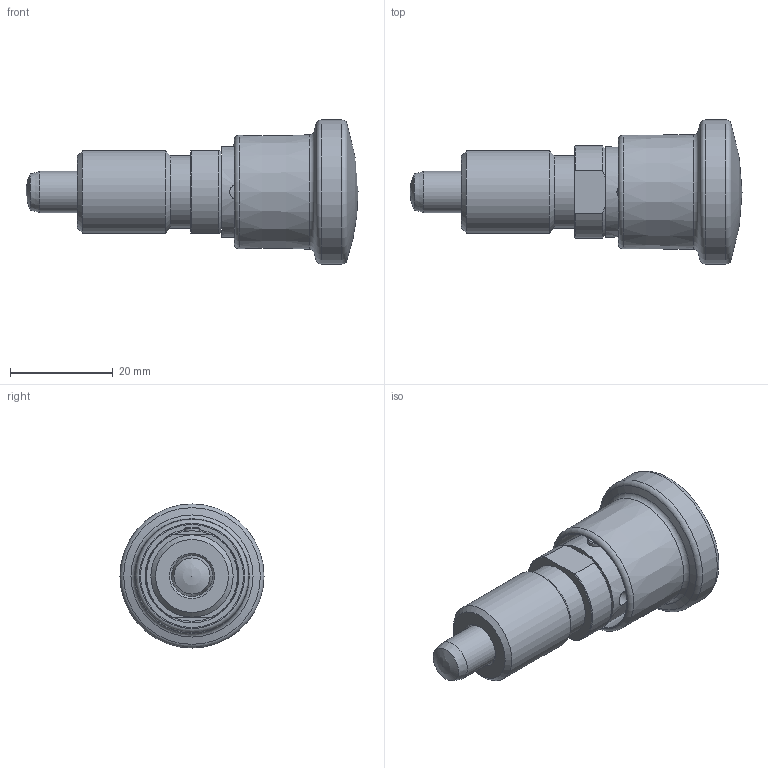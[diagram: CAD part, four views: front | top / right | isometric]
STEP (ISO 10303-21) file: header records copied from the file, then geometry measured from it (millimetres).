
FILE_DESCRIPTION( ( 'STEP AP203' ), '1' );
FILE_NAME( 'C:/Temp/Ganter_Step_05_03_2020/data/3_1/gn816_1/gn_816_1_ar/Locking plunger GN 816.1-8-M16x1,5-AR (activated).stp', '2020-03-12T08:56:14', ( 'License CC BY-ND 4.0' ), ( 'CADENAS' ), ' ', 'PARTsolutions', ' ' );
FILE_SCHEMA( ( 'CONFIG_CONTROL_DESIGN' ) );
Length unit declared in the file: millimetre
Products named in the file (3): Locking plunger GN 816.1-8-M16x1,5-AR (activated); _GN 816.1-8-M16x1,5-AR (activated)-2; _GN 816.1-8-M16x1,5-AR (activated)-1
Assembly tree (2 placements, depth 2):
  Locking plunger GN 816.1-8-M16x1,5-AR (activated)
    _GN 816.1-8-M16x1,5-AR (activated)-2
    _GN 816.1-8-M16x1,5-AR (activated)-1
Bounding box: 64.5 x 28 x 28 mm (x, y, z)
Volume: 14261.7 mm3; surface area: 10453.4 mm2
Topology: 2 solids, 2 shells, 55 faces, 116 edges, 73 vertices
Faces by surface type: cone 17, cylinder 16, plane 14, torus 6, sphere 2
Full cylindrical faces by diameter (mm): 2.9 x1, 3 x3, 8 x2, 11 x1, 11.1 x1, 14.2 x2, 16 x1, 18.2 x1, 20.017 x1, 28 x1
Entity records: 1700 total; most frequent: CARTESIAN_POINT 575, DIRECTION 222, ORIENTED_EDGE 144, AXIS2_PLACEMENT_3D 107, EDGE_LOOP 106, FACE_OUTER_BOUND 75, EDGE_CURVE 72, VERTEX_POINT 66
